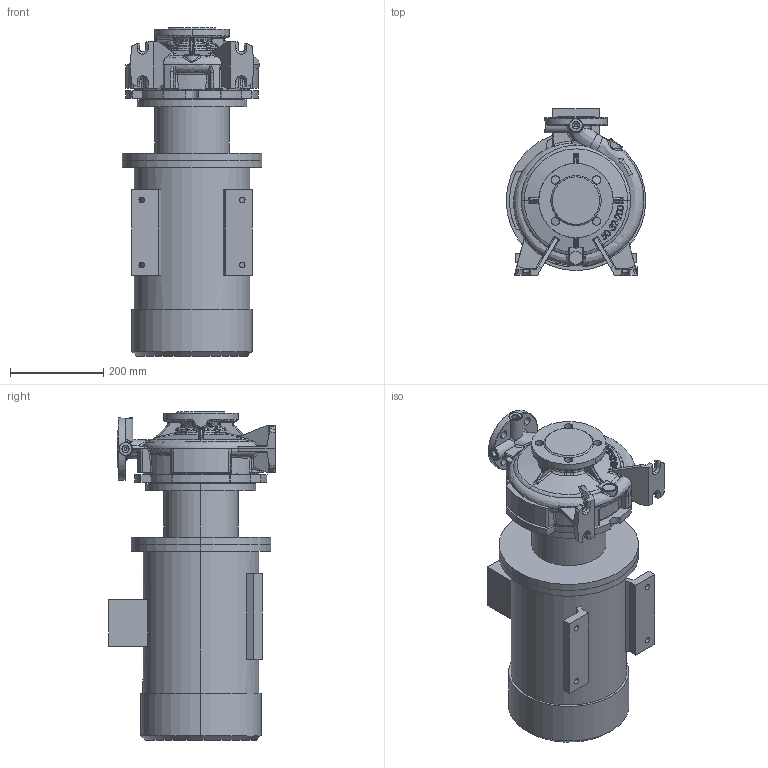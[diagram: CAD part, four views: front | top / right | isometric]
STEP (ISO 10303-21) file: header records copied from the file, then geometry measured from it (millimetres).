
FILE_DESCRIPTION (( 'STEP AP214' ), '1' );
FILE_NAME ('KRM 50-32-200-2-7,5.STEP', '2026-04-23T08:45:41', ( '' ), ( '' ), 'SwSTEP 2.0', 'SolidWorks 2016', '' );
FILE_SCHEMA (( 'AUTOMOTIVE_DESIGN' ));
Length unit declared in the file: millimetre
Products named in the file (1): KRM 50-32-200-2-7,5
Bounding box: 300 x 358 x 706.3 mm (x, y, z)
Volume: 33140875.1 mm3; surface area: 1356478.3 mm2
Topology: 4 solids, 4 shells, 974 faces, 2431 edges, 1479 vertices
Faces by surface type: bspline 346, plane 226, cylinder 212, cone 85, torus 78, sphere 27
Entity records: 66133 total; most frequent: CARTESIAN_POINT 35130, ORIENTED_EDGE 4828, DIRECTION 3424, EDGE_CURVE 2414, VERTEX_POINT 1479, AXIS2_PLACEMENT_3D 1409, EDGE_LOOP 1031, UNCERTAINTY_MEASURE_WITH_UNIT 980
